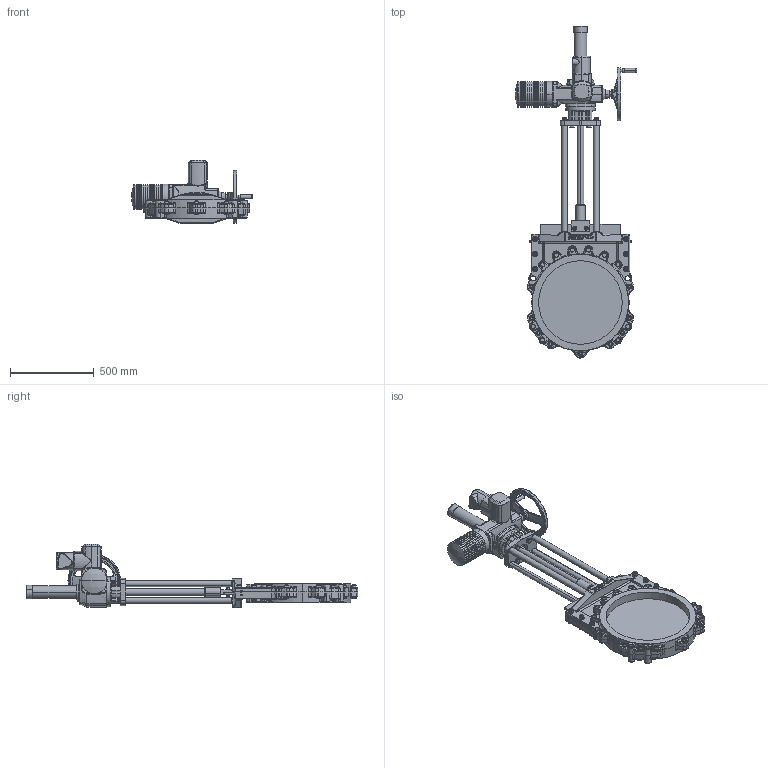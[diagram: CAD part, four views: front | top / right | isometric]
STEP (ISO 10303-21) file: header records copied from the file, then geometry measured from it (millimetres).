
FILE_DESCRIPTION (( 'STEP AP214' ), '1' );
FILE_NAME ('VSE DN 0500.STEP', '2015-09-23T11:23:55', ( 'admin' ), ( 'Hewlett-Packard Company' ), 'SwSTEP 2.0', 'SolidWorks 2013', '' );
FILE_SCHEMA (( 'AUTOMOTIVE_DESIGN' ));
Length unit declared in the file: millimetre
Products named in the file (1): VSE DN 0500
Bounding box: 725 x 1984.99 x 380.25 mm (x, y, z)
Volume: 42146308.6 mm3; surface area: 3121825.3 mm2
Topology: 91 solids, 104 shells, 3794 faces, 8739 edges, 5074 vertices
Faces by surface type: plane 1102, cylinder 968, bspline 691, cone 641, torus 378, sphere 14
Entity records: 190501 total; most frequent: CARTESIAN_POINT 67470, ORIENTED_EDGE 17062, DIRECTION 16258, EDGE_CURVE 8531, AXIS2_PLACEMENT_3D 6783, VERTEX_POINT 5074, EDGE_LOOP 4113, UNCERTAINTY_MEASURE_WITH_UNIT 3887
